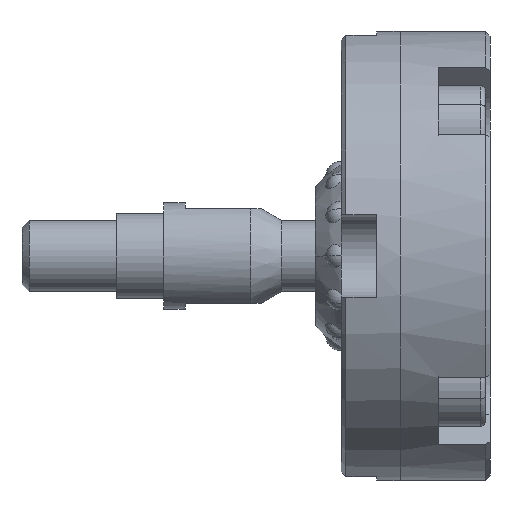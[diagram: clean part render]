
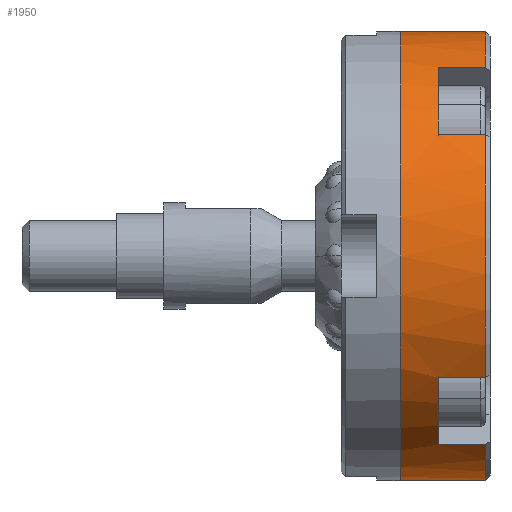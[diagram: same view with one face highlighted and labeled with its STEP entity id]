
A CAD part, front view. The second image highlights one B-rep face of the part: STEP entity #1950.
In plain terms, the highlighted cylindrical face has radius 9.5 mm (diameter 19 mm), a partial arc.
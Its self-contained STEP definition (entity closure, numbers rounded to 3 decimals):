
#756 = VERTEX_POINT ( 'NONE', #1314 ) ;
#757 = VERTEX_POINT ( 'NONE', #1315 ) ;
#758 = VERTEX_POINT ( 'NONE', #1316 ) ;
#759 = VERTEX_POINT ( 'NONE', #1317 ) ;
#793 = VERTEX_POINT ( 'NONE', #1351 ) ;
#815 = VERTEX_POINT ( 'NONE', #1373 ) ;
#816 = VERTEX_POINT ( 'NONE', #1374 ) ;
#819 = VERTEX_POINT ( 'NONE', #1377 ) ;
#820 = VERTEX_POINT ( 'NONE', #1378 ) ;
#825 = VERTEX_POINT ( 'NONE', #1383 ) ;
#826 = VERTEX_POINT ( 'NONE', #1384 ) ;
#830 = VERTEX_POINT ( 'NONE', #1388 ) ;
#1314 = CARTESIAN_POINT ( 'NONE',  ( 3.6, 0., -9.5 ) ) ;
#1315 = CARTESIAN_POINT ( 'NONE',  ( 0., 0., -9.5 ) ) ;
#1316 = CARTESIAN_POINT ( 'NONE',  ( 0., 0., 9.5 ) ) ;
#1317 = CARTESIAN_POINT ( 'NONE',  ( 3.6, 0., 9.5 ) ) ;
#1351 = CARTESIAN_POINT ( 'NONE',  ( 3.6, -5.153, 7.981 ) ) ;
#1373 = CARTESIAN_POINT ( 'NONE',  ( 1.6, -5.153, 7.981 ) ) ;
#1374 = CARTESIAN_POINT ( 'NONE',  ( 1.6, -7.981, 5.153 ) ) ;
#1377 = CARTESIAN_POINT ( 'NONE',  ( 3.6, -7.981, 5.153 ) ) ;
#1378 = CARTESIAN_POINT ( 'NONE',  ( 3.6, -7.981, -5.153 ) ) ;
#1383 = CARTESIAN_POINT ( 'NONE',  ( 1.6, -5.153, -7.981 ) ) ;
#1384 = CARTESIAN_POINT ( 'NONE',  ( 3.6, -5.153, -7.981 ) ) ;
#1388 = CARTESIAN_POINT ( 'NONE',  ( 1.6, -7.981, -5.153 ) ) ;
#1950 = ADVANCED_FACE ( 'NONE', ( #5701 ), #5702, .T. ) ;
#2260 = EDGE_CURVE ( 'NONE', #756, #757, #6260, .T. ) ;
#2262 = EDGE_CURVE ( 'NONE', #759, #758, #6263, .T. ) ;
#2297 = EDGE_CURVE ( 'NONE', #793, #759, #6315, .T. ) ;
#2332 = EDGE_CURVE ( 'NONE', #815, #816, #6360, .T. ) ;
#2334 = EDGE_CURVE ( 'NONE', #815, #793, #6362, .T. ) ;
#2339 = EDGE_CURVE ( 'NONE', #816, #819, #6371, .T. ) ;
#2412 = EDGE_LOOP ( 'NONE', ( #3098, #3099, #3100, #3101, #3102, #3103, #3104, #3105, #3106, #3107, #3108, #3109 ) ) ;
#3098 = ORIENTED_EDGE ( 'NONE', *, *, #2260, .F. ) ;
#3099 = ORIENTED_EDGE ( 'NONE', *, *, #4222, .T. ) ;
#3100 = ORIENTED_EDGE ( 'NONE', *, *, #4191, .F. ) ;
#3101 = ORIENTED_EDGE ( 'NONE', *, *, #4197, .F. ) ;
#3102 = ORIENTED_EDGE ( 'NONE', *, *, #4198, .T. ) ;
#3103 = ORIENTED_EDGE ( 'NONE', *, *, #4185, .T. ) ;
#3104 = ORIENTED_EDGE ( 'NONE', *, *, #2339, .F. ) ;
#3105 = ORIENTED_EDGE ( 'NONE', *, *, #2332, .F. ) ;
#3106 = ORIENTED_EDGE ( 'NONE', *, *, #2334, .T. ) ;
#3107 = ORIENTED_EDGE ( 'NONE', *, *, #2297, .T. ) ;
#3108 = ORIENTED_EDGE ( 'NONE', *, *, #2262, .T. ) ;
#3109 = ORIENTED_EDGE ( 'NONE', *, *, #4219, .F. ) ;
#4185 = EDGE_CURVE ( 'NONE', #820, #819, #6373, .T. ) ;
#4191 = EDGE_CURVE ( 'NONE', #825, #826, #6381, .T. ) ;
#4197 = EDGE_CURVE ( 'NONE', #830, #825, #6389, .T. ) ;
#4198 = EDGE_CURVE ( 'NONE', #830, #820, #6388, .T. ) ;
#4219 = EDGE_CURVE ( 'NONE', #757, #758, #6413, .T. ) ;
#4222 = EDGE_CURVE ( 'NONE', #756, #826, #6416, .T. ) ;
#4934 = AXIS2_PLACEMENT_3D ( 'NONE', #6611, #6612, #6613 ) ;
#5215 = AXIS2_PLACEMENT_3D ( 'NONE', #7660, #7661, #7662 ) ;
#5231 = AXIS2_PLACEMENT_3D ( 'NONE', #7950, #7951, #7952 ) ;
#5233 = AXIS2_PLACEMENT_3D ( 'NONE', #7972, #7973, #7974 ) ;
#5238 = AXIS2_PLACEMENT_3D ( 'NONE', #8005, #8006, #8007 ) ;
#5257 = AXIS2_PLACEMENT_3D ( 'NONE', #8068, #8069, #8070 ) ;
#5260 = AXIS2_PLACEMENT_3D ( 'NONE', #8077, #8078, #8079 ) ;
#5701 = FACE_OUTER_BOUND ( 'NONE', #2412, .T. ) ;
#5702 = CYLINDRICAL_SURFACE ( 'NONE', #4934, 9.5 ) ;
#6260 = LINE ( 'NONE', #7566, #6262 ) ;
#6262 = VECTOR ( 'NONE', #7567, 1000. ) ;
#6263 = LINE ( 'NONE', #7571, #6265 ) ;
#6265 = VECTOR ( 'NONE', #7572, 1000. ) ;
#6315 = CIRCLE ( 'NONE', #5215, 9.5 ) ;
#6360 = CIRCLE ( 'NONE', #5231, 9.5 ) ;
#6362 = LINE ( 'NONE', #7955, #6363 ) ;
#6363 = VECTOR ( 'NONE', #7956, 1000. ) ;
#6371 = LINE ( 'NONE', #7966, #6372 ) ;
#6372 = VECTOR ( 'NONE', #7967, 1000. ) ;
#6373 = CIRCLE ( 'NONE', #5233, 9.5 ) ;
#6381 = LINE ( 'NONE', #7988, #6382 ) ;
#6382 = VECTOR ( 'NONE', #7989, 1000. ) ;
#6388 = LINE ( 'NONE', #8008, #6390 ) ;
#6389 = CIRCLE ( 'NONE', #5238, 9.5 ) ;
#6390 = VECTOR ( 'NONE', #8009, 1000. ) ;
#6413 = CIRCLE ( 'NONE', #5257, 9.5 ) ;
#6416 = CIRCLE ( 'NONE', #5260, 9.5 ) ;
#6611 = CARTESIAN_POINT ( 'NONE',  ( 0., 0., 0. ) ) ;
#6612 = DIRECTION ( 'NONE',  ( -1., 0., 0. ) ) ;
#6613 = DIRECTION ( 'NONE',  ( 0., 0., 1. ) ) ;
#7566 = CARTESIAN_POINT ( 'NONE',  ( 0., 0., -9.5 ) ) ;
#7567 = DIRECTION ( 'NONE',  ( -1., 0., 0. ) ) ;
#7571 = CARTESIAN_POINT ( 'NONE',  ( 0., 0., 9.5 ) ) ;
#7572 = DIRECTION ( 'NONE',  ( -1., 0., 0. ) ) ;
#7660 = CARTESIAN_POINT ( 'NONE',  ( 3.6, 0., 0. ) ) ;
#7661 = DIRECTION ( 'NONE',  ( -1., 0., 0. ) ) ;
#7662 = DIRECTION ( 'NONE',  ( 0., 0., 1. ) ) ;
#7950 = CARTESIAN_POINT ( 'NONE',  ( 1.6, 0., 0. ) ) ;
#7951 = DIRECTION ( 'NONE',  ( 1., 0., 0. ) ) ;
#7952 = DIRECTION ( 'NONE',  ( 0., 0., -1. ) ) ;
#7955 = CARTESIAN_POINT ( 'NONE',  ( 1.6, -5.153, 7.981 ) ) ;
#7956 = DIRECTION ( 'NONE',  ( 1., 0., 0. ) ) ;
#7966 = CARTESIAN_POINT ( 'NONE',  ( 1.6, -7.981, 5.153 ) ) ;
#7967 = DIRECTION ( 'NONE',  ( 1., 0., 0. ) ) ;
#7972 = CARTESIAN_POINT ( 'NONE',  ( 3.6, 0., 0. ) ) ;
#7973 = DIRECTION ( 'NONE',  ( -1., 0., 0. ) ) ;
#7974 = DIRECTION ( 'NONE',  ( 0., 0., 1. ) ) ;
#7988 = CARTESIAN_POINT ( 'NONE',  ( 1.6, -5.153, -7.981 ) ) ;
#7989 = DIRECTION ( 'NONE',  ( 1., 0., 0. ) ) ;
#8005 = CARTESIAN_POINT ( 'NONE',  ( 1.6, 0., 0. ) ) ;
#8006 = DIRECTION ( 'NONE',  ( 1., 0., 0. ) ) ;
#8007 = DIRECTION ( 'NONE',  ( 0., 1., 0. ) ) ;
#8008 = CARTESIAN_POINT ( 'NONE',  ( 1.6, -7.981, -5.153 ) ) ;
#8009 = DIRECTION ( 'NONE',  ( 1., 0., 0. ) ) ;
#8068 = CARTESIAN_POINT ( 'NONE',  ( 0., 0., 0. ) ) ;
#8069 = DIRECTION ( 'NONE',  ( -1., 0., 0. ) ) ;
#8070 = DIRECTION ( 'NONE',  ( 0., 0., 1. ) ) ;
#8077 = CARTESIAN_POINT ( 'NONE',  ( 3.6, 0., 0. ) ) ;
#8078 = DIRECTION ( 'NONE',  ( -1., 0., 0. ) ) ;
#8079 = DIRECTION ( 'NONE',  ( 0., 0., 1. ) ) ;
